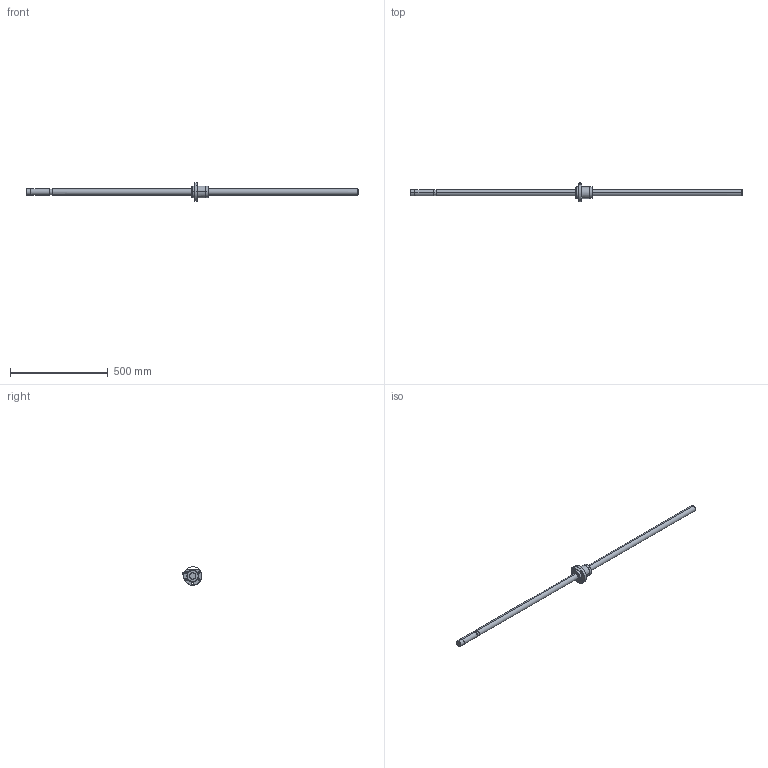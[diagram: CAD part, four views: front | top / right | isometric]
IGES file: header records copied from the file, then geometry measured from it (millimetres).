
Global section: file name: No Iges File Name specified; native system: AutoDesk Inventor R10; preprocessor: AutoDesk Inventor Iges Exporter R10; author: No Author specified; organization: No Organization specified; date: 20101224.134745; units: millimetre
Bounding box: 1700 x 101.33 x 93.99 mm (x, y, z)
Surface area: 213771.3 mm2 (no closed solid volume)
Topology: 0 solids, 0 shells, 72 faces, 474 edges, 470 vertices
Faces by surface type: bspline 72
